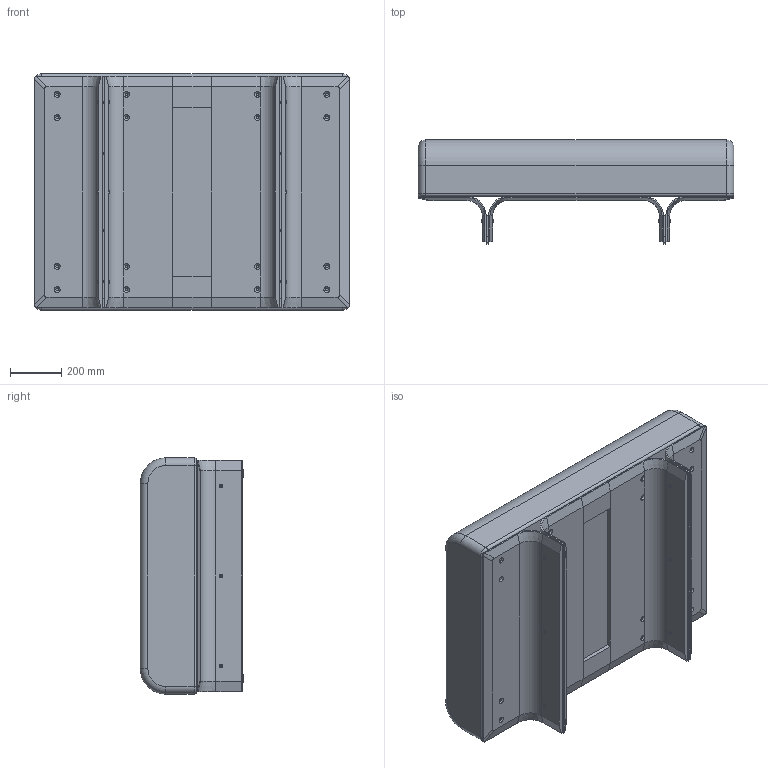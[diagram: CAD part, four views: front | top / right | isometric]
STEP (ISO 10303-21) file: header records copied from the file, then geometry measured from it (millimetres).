
FILE_DESCRIPTION (( 'STEP AP214' ), '1' );
FILE_NAME ('1230 pouff.STEP', '2024-06-05T12:47:09', ( '' ), ( '' ), 'SwSTEP 2.0', 'SolidWorks 2023', '' );
FILE_SCHEMA (( 'AUTOMOTIVE_DESIGN' ));
Length unit declared in the file: millimetre
Products named in the file (10): BASE_COMPONENTI_SEMIPONTE CENTRALE; 20PT8X30N scivolo IPEA; BASE_DISTANZIALE_1cm; 1230 pouff; BASE_COMPONENTI_SEMIPONTE TERMINALE; boccola_borchia M6; BASE_FASCIA_COLLEGAMENTO_x_MODULARE_1230 CENTRALE; STAMI_SOFA_PLUS_BASE_ASSIEME_1230 CENTRALE o POUFF; SEDILE_1230 POUFF GOMMA VERIFICARE; PIEDINO_L900
Assembly tree (28 placements, depth 3):
  1230 pouff
    STAMI_SOFA_PLUS_BASE_ASSIEME_1230 CENTRALE o POUFF
      BASE_DISTANZIALE_1cm  x2
      PIEDINO_L900  x2
      20PT8X30N scivolo IPEA  x4
      BASE_COMPONENTI_SEMIPONTE CENTRALE  x2
      BASE_COMPONENTI_SEMIPONTE TERMINALE  x2
      BASE_FASCIA_COLLEGAMENTO_x_MODULARE_1230 CENTRALE  x2
      boccola_borchia M6  x12
    SEDILE_1230 POUFF GOMMA VERIFICARE
Bounding box: 1230 x 404 x 920 mm (x, y, z)
Volume: 265257860.1 mm3; surface area: 6627620.6 mm2
Topology: 27 solids, 27 shells, 706 faces, 1672 edges, 1008 vertices
Faces by surface type: cylinder 312, plane 250, cone 88, torus 40, sphere 16
Entity records: 8030 total; most frequent: DIRECTION 1468, CARTESIAN_POINT 1342, ORIENTED_EDGE 1220, EDGE_CURVE 610, AXIS2_PLACEMENT_3D 578, VERTEX_POINT 376, EDGE_LOOP 318, VECTOR 312
